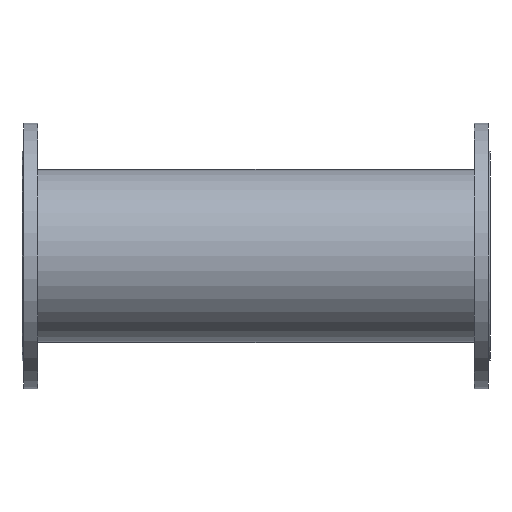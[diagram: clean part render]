
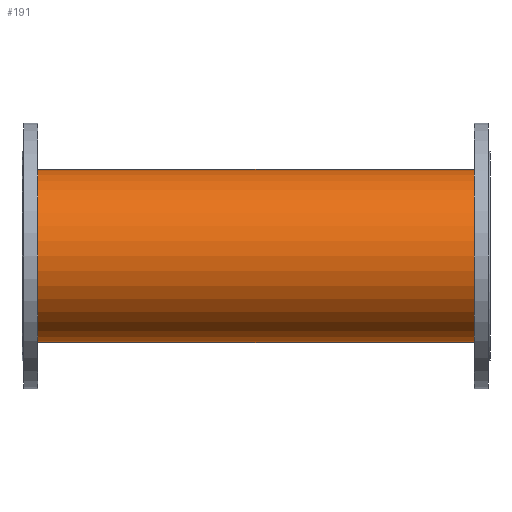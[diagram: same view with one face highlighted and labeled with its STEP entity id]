
A CAD part, front view. The second image highlights one B-rep face of the part: STEP entity #191.
In plain terms, the highlighted cylindrical face has radius 111 mm (diameter 222 mm), a partial arc.
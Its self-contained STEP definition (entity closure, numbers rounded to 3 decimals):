
#191=ADVANCED_FACE('',(#406),#407,.T.);
#406=FACE_OUTER_BOUND('',#731,.T.);
#407=CYLINDRICAL_SURFACE('',#732,111.0);
#731=EDGE_LOOP('',(#1134,#1135,#1136,#1137));
#732=AXIS2_PLACEMENT_3D('',#1138,#1139,#1140);
#1134=ORIENTED_EDGE('',*,*,#1794,.T.);
#1135=ORIENTED_EDGE('',*,*,#1795,.T.);
#1136=ORIENTED_EDGE('',*,*,#1796,.T.);
#1137=ORIENTED_EDGE('',*,*,#1797,.T.);
#1138=CARTESIAN_POINT('',(10.0,0.0,0.));
#1139=DIRECTION('',(1.0,0.0,0.));
#1140=DIRECTION('',(0.,0.0,-1.0));
#1794=EDGE_CURVE('',#2161,#2162,#2163,.T.);
#1795=EDGE_CURVE('',#2162,#2164,#2165,.T.);
#1796=EDGE_CURVE('',#2164,#2166,#2167,.T.);
#1797=EDGE_CURVE('',#2166,#2161,#2168,.T.);
#2161=VERTEX_POINT('',#2624);
#2162=VERTEX_POINT('',#2625);
#2163=LINE('',#2626,#2627);
#2164=VERTEX_POINT('',#2628);
#2165=CIRCLE('',#2629,111.0);
#2166=VERTEX_POINT('',#2630);
#2167=LINE('',#2631,#2632);
#2168=CIRCLE('',#2633,111.0);
#2624=CARTESIAN_POINT('',(10.0,0.0,-111.0));
#2625=CARTESIAN_POINT('',(590.0,0.0,-111.0));
#2626=CARTESIAN_POINT('',(10.0,0.,-111.0));
#2627=VECTOR('',#3054,1.0);
#2628=CARTESIAN_POINT('',(590.0,0.,111.0));
#2629=AXIS2_PLACEMENT_3D('',#3055,#3056,#3057);
#2630=CARTESIAN_POINT('',(10.,0.,111.0));
#2631=CARTESIAN_POINT('',(10.,0.,111.0));
#2632=VECTOR('',#3058,1.0);
#2633=AXIS2_PLACEMENT_3D('',#3059,#3060,#3061);
#3054=DIRECTION('',(1.0,0.0,0.));
#3055=CARTESIAN_POINT('',(590.0,0.0,0.));
#3056=DIRECTION('',(-1.0,-0.0,0.));
#3057=DIRECTION('',(0.,0.0,-1.0));
#3058=DIRECTION('',(-1.0,-0.0,0.));
#3059=CARTESIAN_POINT('',(10.0,0.0,0.));
#3060=DIRECTION('',(1.0,0.0,0.));
#3061=DIRECTION('',(0.,0.0,-1.0));
